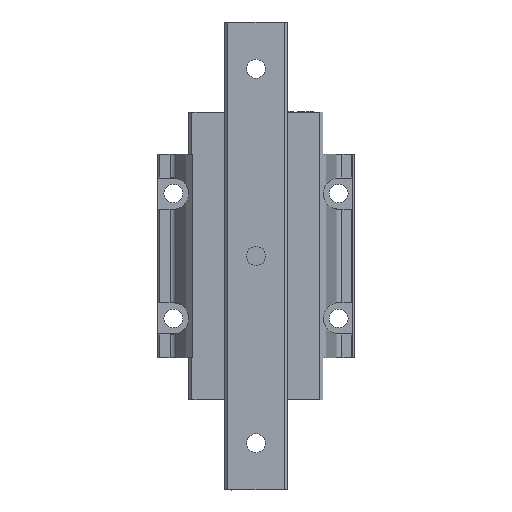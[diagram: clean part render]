
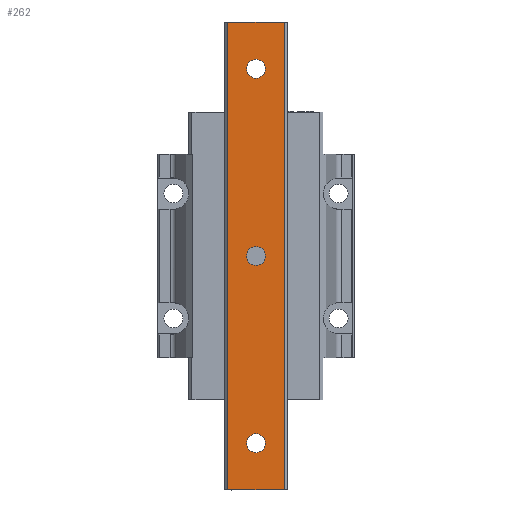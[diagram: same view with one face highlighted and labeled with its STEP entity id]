
A CAD part, front view. The second image highlights one B-rep face of the part: STEP entity #262.
In plain terms, the highlighted planar face has unit normal (0, -1, 0).
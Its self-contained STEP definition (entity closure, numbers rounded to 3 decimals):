
#122=FACE_BOUND('',#980,.T.);
#123=FACE_BOUND('',#981,.T.);
#124=FACE_BOUND('',#982,.T.);
#125=FACE_BOUND('',#983,.T.);
#262=ADVANCED_FACE('',(#122,#123,#124,#125),#520,.T.);
#520=PLANE('',#5439);
#980=EDGE_LOOP('',(#2588,#2589,#2590,#2591));
#981=EDGE_LOOP('',(#2592));
#982=EDGE_LOOP('',(#2593));
#983=EDGE_LOOP('',(#2594));
#1268=LINE('',#7255,#1873);
#1307=LINE('',#7379,#1912);
#1308=LINE('',#7381,#1913);
#1309=LINE('',#7383,#1914);
#1873=VECTOR('',#5822,1.);
#1912=VECTOR('',#5945,1.);
#1913=VECTOR('',#5948,1.);
#1914=VECTOR('',#5949,1.);
#2588=ORIENTED_EDGE('',*,*,#4576,.T.);
#2589=ORIENTED_EDGE('',*,*,#4577,.F.);
#2590=ORIENTED_EDGE('',*,*,#4578,.F.);
#2591=ORIENTED_EDGE('',*,*,#4514,.T.);
#2592=ORIENTED_EDGE('',*,*,#4579,.T.);
#2593=ORIENTED_EDGE('',*,*,#4580,.T.);
#2594=ORIENTED_EDGE('',*,*,#4581,.T.);
#4004=VERTEX_POINT('',#7254);
#4005=VERTEX_POINT('',#7256);
#4047=VERTEX_POINT('',#7378);
#4048=VERTEX_POINT('',#7382);
#4049=VERTEX_POINT('',#7385);
#4050=VERTEX_POINT('',#7387);
#4051=VERTEX_POINT('',#7389);
#4514=EDGE_CURVE('',#4005,#4004,#1268,.T.);
#4576=EDGE_CURVE('',#4004,#4047,#1307,.T.);
#4577=EDGE_CURVE('',#4048,#4047,#1308,.T.);
#4578=EDGE_CURVE('',#4005,#4048,#1309,.T.);
#4579=EDGE_CURVE('',#4049,#4049,#5287,.T.);
#4580=EDGE_CURVE('',#4050,#4050,#5288,.T.);
#4581=EDGE_CURVE('',#4051,#4051,#5289,.T.);
#5287=CIRCLE('',#5436,3.);
#5288=CIRCLE('',#5437,3.);
#5289=CIRCLE('',#5438,3.);
#5436=AXIS2_PLACEMENT_3D('',#7384,#5950,#5951);
#5437=AXIS2_PLACEMENT_3D('',#7386,#5952,#5953);
#5438=AXIS2_PLACEMENT_3D('',#7388,#5954,#5955);
#5439=AXIS2_PLACEMENT_3D('',#7390,#5956,#5957);
#5822=DIRECTION('',(1.,0.,0.));
#5945=DIRECTION('',(0.,0.,1.));
#5948=DIRECTION('',(1.,0.,0.));
#5949=DIRECTION('',(0.,0.,1.));
#5950=DIRECTION('',(0.,1.,0.));
#5951=DIRECTION('',(1.,0.,0.));
#5952=DIRECTION('',(0.,1.,0.));
#5953=DIRECTION('',(1.,0.,0.));
#5954=DIRECTION('',(0.,1.,0.));
#5955=DIRECTION('',(1.,0.,0.));
#5956=DIRECTION('',(0.,-1.,0.));
#5957=DIRECTION('',(-1.,0.,0.));
#7254=CARTESIAN_POINT('',(9.,-17.5,-75.));
#7255=CARTESIAN_POINT('',(-9.,-17.5,-75.));
#7256=CARTESIAN_POINT('',(-9.,-17.5,-75.));
#7378=CARTESIAN_POINT('',(9.,-17.5,75.));
#7379=CARTESIAN_POINT('',(9.,-17.5,-75.));
#7381=CARTESIAN_POINT('',(-9.,-17.5,75.));
#7382=CARTESIAN_POINT('',(-9.,-17.5,75.));
#7383=CARTESIAN_POINT('',(-9.,-17.5,-75.));
#7384=CARTESIAN_POINT('',(0.,-17.5,0.));
#7385=CARTESIAN_POINT('',(3.,-17.5,0.));
#7386=CARTESIAN_POINT('',(0.,-17.5,60.));
#7387=CARTESIAN_POINT('',(3.,-17.5,60.));
#7388=CARTESIAN_POINT('',(0.,-17.5,-60.));
#7389=CARTESIAN_POINT('',(3.,-17.5,-60.));
#7390=CARTESIAN_POINT('',(-9.9,-17.5,-82.5));
